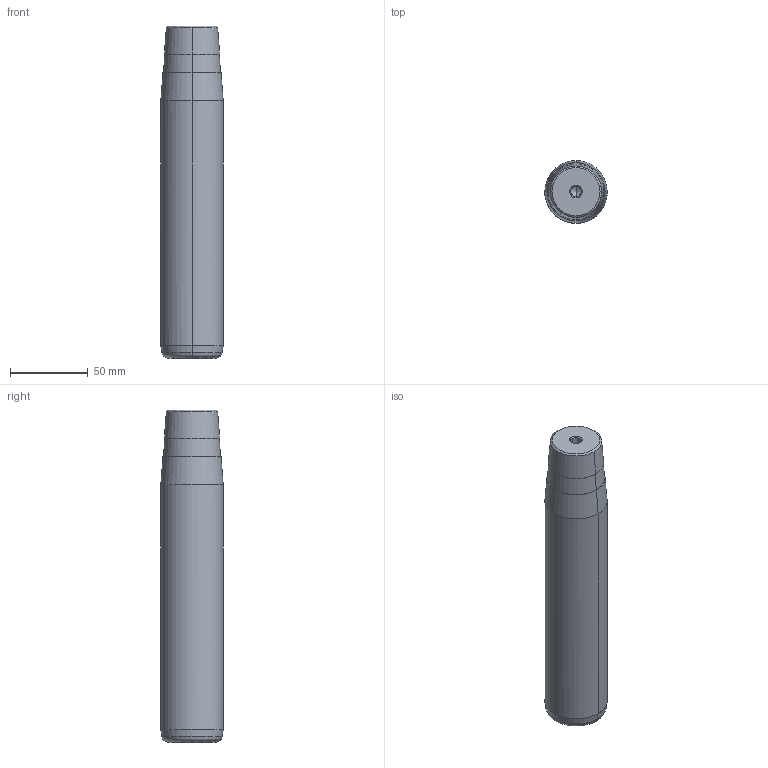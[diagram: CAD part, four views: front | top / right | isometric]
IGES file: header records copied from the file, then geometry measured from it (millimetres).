
Start section: START RECORD GO HERE.
Global section: file name: 722-40x180x213.igs; native system: DASSAULT SYSTEMES CATIA V5 R20 - www.3ds.com; preprocessor: CATIA Version 5 Release 20 ; author: Utente; organization: NB04-ASUS; date: 20210108.163552; units: millimetre
Bounding box: 40 x 40 x 213 mm (x, y, z)
Surface area: 29103.2 mm2 (no closed solid volume)
Topology: 0 solids, 0 shells, 32 faces, 192 edges, 188 vertices
Faces by surface type: revolution 30, plane 2
